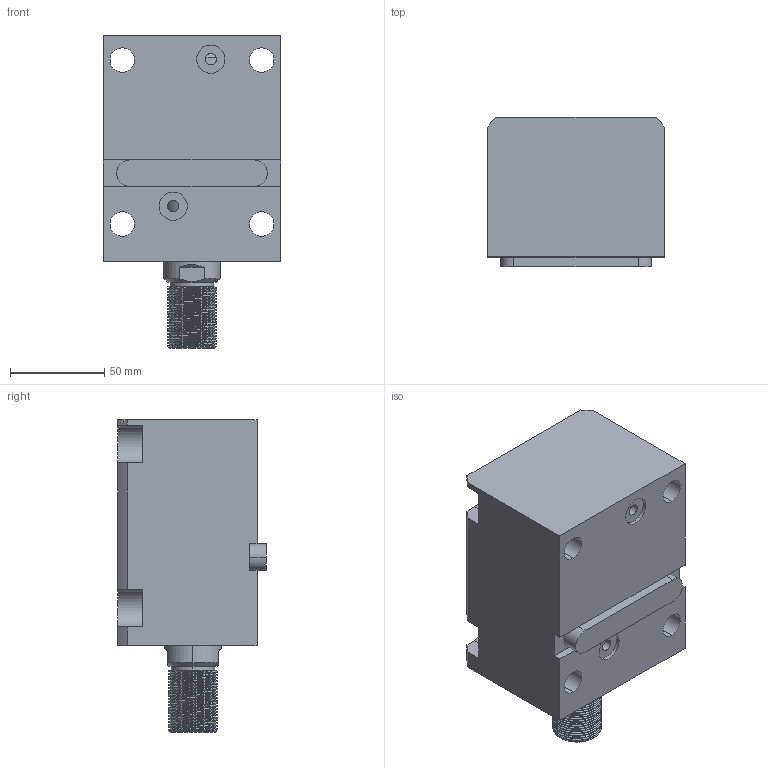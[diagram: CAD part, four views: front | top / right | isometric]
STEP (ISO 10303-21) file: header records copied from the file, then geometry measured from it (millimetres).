
FILE_DESCRIPTION (( 'STEP AP203' ), '1' );
FILE_NAME ('CHTB-LAM50-60W.STEP', '2018-05-23T10:44:51', ( '' ), ( '' ), 'SwSTEP 2.0', 'SolidWorks 2015', '' );
FILE_SCHEMA (( 'CONFIG_CONTROL_DESIGN' ));
Length unit declared in the file: millimetre
Products named in the file (4): 活塞杆LAM50-60W; CHTM-SDMA50QG; 掛极LAM50-60W; CHTB-LAM50-60W
Assembly tree (3 placements, depth 2):
  CHTB-LAM50-60W
    掛极LAM50-60W
    活塞杆LAM50-60W
    CHTM-SDMA50QG
Bounding box: 94 x 79 x 166 mm (x, y, z)
Volume: 730526.8 mm3; surface area: 121236.6 mm2
Topology: 3 solids, 3 shells, 234 faces, 652 edges, 436 vertices
Faces by surface type: cylinder 136, plane 53, bspline 16, torus 16, cone 13
Entity records: 14802 total; most frequent: CARTESIAN_POINT 8867, ORIENTED_EDGE 1296, DIRECTION 1023, EDGE_CURVE 648, VERTEX_POINT 436, AXIS2_PLACEMENT_3D 395, EDGE_LOOP 264, FACE_OUTER_BOUND 234
